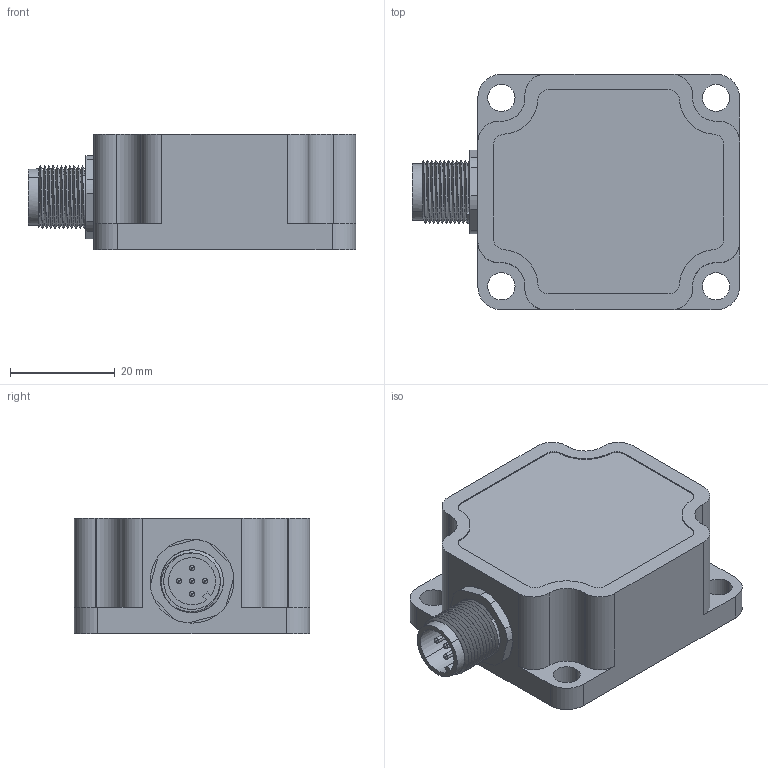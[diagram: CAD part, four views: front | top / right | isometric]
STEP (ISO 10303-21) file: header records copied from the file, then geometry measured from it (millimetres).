
FILE_DESCRIPTION (( 'STEP AP203' ), '1' );
FILE_NAME ('HI50RXX_3D.STEP', '2023-10-07T03:45:11', ( '' ), ( '' ), 'SwSTEP 2.0', 'SolidWorks 2016', '' );
FILE_SCHEMA (( 'CONFIG_CONTROL_DESIGN' ));
Length unit declared in the file: millimetre
Products named in the file (1): HI50RXX_3D
Bounding box: 62.5 x 45 x 22 mm (x, y, z)
Volume: 15728.8 mm3; surface area: 17355.3 mm2
Topology: 3 solids, 3 shells, 261 faces, 683 edges, 436 vertices
Faces by surface type: cylinder 162, plane 64, cone 22, torus 10, bspline 3
Entity records: 9729 total; most frequent: CARTESIAN_POINT 3130, DIRECTION 1449, ORIENTED_EDGE 1338, EDGE_CURVE 669, AXIS2_PLACEMENT_3D 571, VERTEX_POINT 436, CIRCLE 312, VECTOR 307
